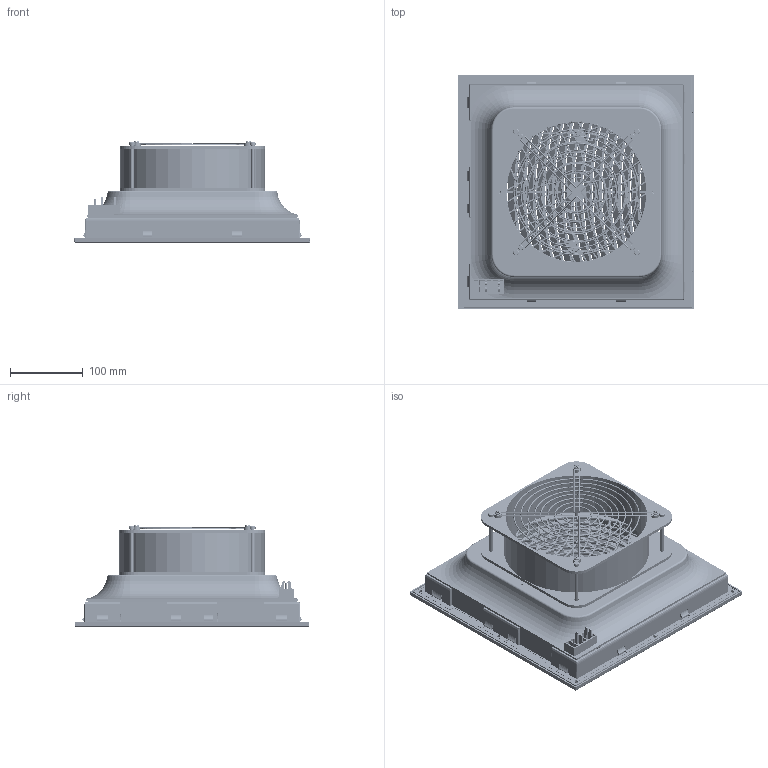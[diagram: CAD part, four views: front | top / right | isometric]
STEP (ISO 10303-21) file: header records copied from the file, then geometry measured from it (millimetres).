
FILE_DESCRIPTION(/* description */ (''),/* implementation_level */ '2;1');
FILE_NAME(/* name */ 'NTL-FCF323+20060+plastic guard（金属）.stp',/* time_stamp */ '2024-11-16T17:43:51+08:00',/* author */ (''),/* organization */ (''),/* preprocessor_version */ 'ST-DEVELOPER v16.7',/* originating_system */ 'SIEMENS PLM Software NX 12.0',/* authorisation */ '');
FILE_SCHEMA (('AUTOMOTIVE_DESIGN { 1 0 10303 214 3 1 1 1 }'));
Products named in the file (1): Admi3A14219C0u1b
Bounding box: 323.97 x 322.27 x 139.99 mm (x, y, z)
Volume: 900209.2 mm3; surface area: 855708.6 mm2
Topology: 9 solids, 9 shells, 7521 faces, 19577 edges, 11795 vertices
Faces by surface type: cone 2621, torus 2409, plane 1750, cylinder 414, bspline 317, sphere 8, extrusion 2
Full cylindrical faces by diameter (mm): 1.84 x8, 2.981 x88, 3.003 x1, 3.28 x6, 4 x11, 4.3 x4, 4.471 x1, 4.5 x2, 5 x4, 6 x4, 7 x5, 8 x4, 8.5 x11, 11 x4, 194.993 x1, 199.993 x2
Entity records: 282083 total; most frequent: CARTESIAN_POINT 109552, ORIENTED_EDGE 37854, DIRECTION 34115, EDGE_CURVE 18927, AXIS2_PLACEMENT_3D 15144, VERTEX_POINT 11492, EDGE_LOOP 8517, CIRCLE 7731
